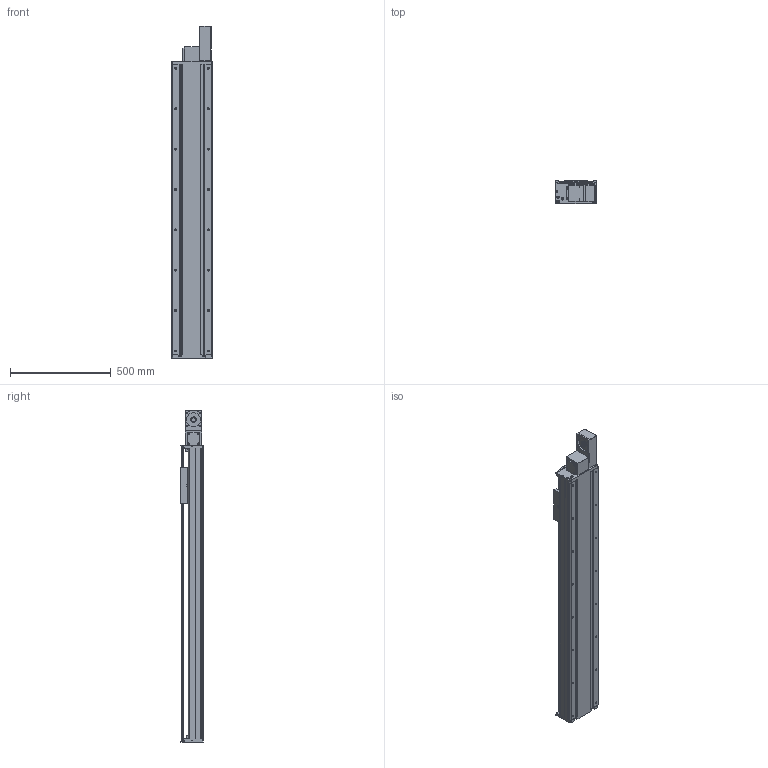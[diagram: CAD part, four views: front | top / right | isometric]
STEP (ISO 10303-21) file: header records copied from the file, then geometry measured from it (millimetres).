
FILE_DESCRIPTION(/* description */ (''),/* implementation_level */ '2;1');
FILE_NAME(/* name */ 'TKB200-FL-1200_asm1.stp',/* time_stamp */ '2016-05-18T11:01:13+08:00',/* author */ (''),/* organization */ (''),/* preprocessor_version */ 'ST-DEVELOPER v15',/* originating_system */ 'SIEMENS PLM Software NX 8.5',/* authorisation */ '');
FILE_SCHEMA (('AUTOMOTIVE_DESIGN { 1 0 10303 214 3 1 1 1 }'));
Length unit declared in the file: millimetre
Products named in the file (3): 200-2; 200-1; TKB200-FL-1200_asm1
Assembly tree (2 placements, depth 2):
  TKB200-FL-1200_asm1
    200-1
    200-2
Bounding box: 200 x 115 x 1645 mm (x, y, z)
Volume: 9595855.9 mm3; surface area: 3011358.2 mm2
Topology: 2 solids, 3 shells, 1034 faces, 2934 edges, 1888 vertices
Faces by surface type: cylinder 481, plane 467, cone 70, bspline 16
Full cylindrical faces by diameter (mm): 2.5 x2, 3.3 x16, 4.3 x4, 4.5 x8, 5 x2, 6.6 x34, 6.8 x8, 8 x6, 9 x24, 10 x4, 11 x22, 12 x16, 14 x16, 36 x1, 42 x2, 75 x1
Entity records: 35510 total; most frequent: CARTESIAN_POINT 9560, DIRECTION 5304, ORIENTED_EDGE 5200, EDGE_CURVE 2600, AXIS2_PLACEMENT_3D 1933, VERTEX_POINT 1792, EDGE_LOOP 1446, LINE 1438
